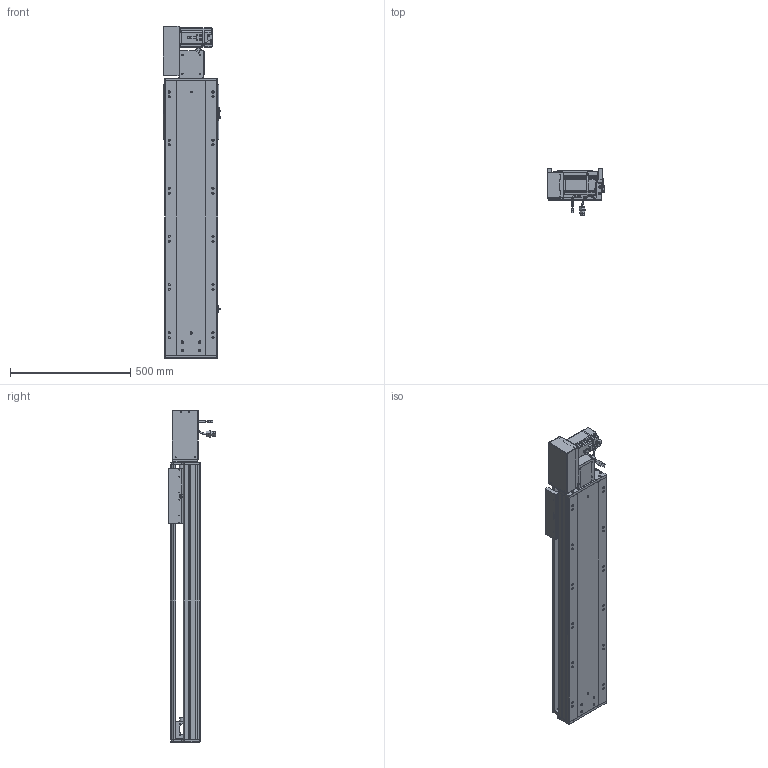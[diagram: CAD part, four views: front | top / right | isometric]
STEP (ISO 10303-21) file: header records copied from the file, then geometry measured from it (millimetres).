
FILE_DESCRIPTION (( 'STEP AP203' ), '1' );
FILE_NAME ('RY220-T-300-LK.SLDASM_800.step', '2022-07-25T08:13:37', ( '' ), ( '' ), 'SwSTEP 2.0', 'SolidWorks 2016', '' );
FILE_SCHEMA (( 'CONFIG_CONTROL_DESIGN' ));
Length unit declared in the file: millimetre
Products named in the file (14): 怢湛750W_ECMA-CX0807ES; RY220-俋离672覜茼んえ; RY220-T-蛌殏萇儂假蚾啣(750W); RY220-同步轮副支撑座6304×2; RY220圉猾敕々湍臏賑輸; RY220-T菁釱-300_800; RY220-T-湍謫欶(鍼踢); 110A-T-肮祭謫釱傷裔; RY220翋肮祭謫釱; 覜茼ん672; RY220-T-300-奻裔啣_800; RY220翋肮祭謫裔啣; RY220-T-300-LK.SLDASM_800; 滅袉蝶18-15
Assembly tree (18 placements, depth 2):
  RY220-T-300-LK.SLDASM_800
    RY220-T菁釱-300_800
    RY220翋肮祭謫釱
    覜茼ん672  x3
    RY220圉猾敕々湍臏賑輸
    RY220-T-300-奻裔啣_800
    RY220-俋离672覜茼んえ
    滅袉蝶18-15  x3
    RY220翋肮祭謫裔啣  x2
    110A-T-肮祭謫釱傷裔
    怢湛750W_ECMA-CX0807ES
    RY220-T-湍謫欶(鍼踢)
    RY220-T-蛌殏萇儂假蚾啣(750W)
    RY220-同步轮副支撑座6304×2
Bounding box: 239.7 x 198.77 x 1379 mm (x, y, z)
Volume: 10968196 mm3; surface area: 3157825.1 mm2
Topology: 19 solids, 19 shells, 2578 faces, 7107 edges, 4518 vertices
Faces by surface type: cylinder 1194, plane 1069, cone 233, bspline 56, sphere 16, torus 10
Entity records: 85667 total; most frequent: CARTESIAN_POINT 24471, ORIENTED_EDGE 12730, DIRECTION 11984, EDGE_CURVE 6365, AXIS2_PLACEMENT_3D 4220, VERTEX_POINT 4142, LINE 3544, VECTOR 3544
